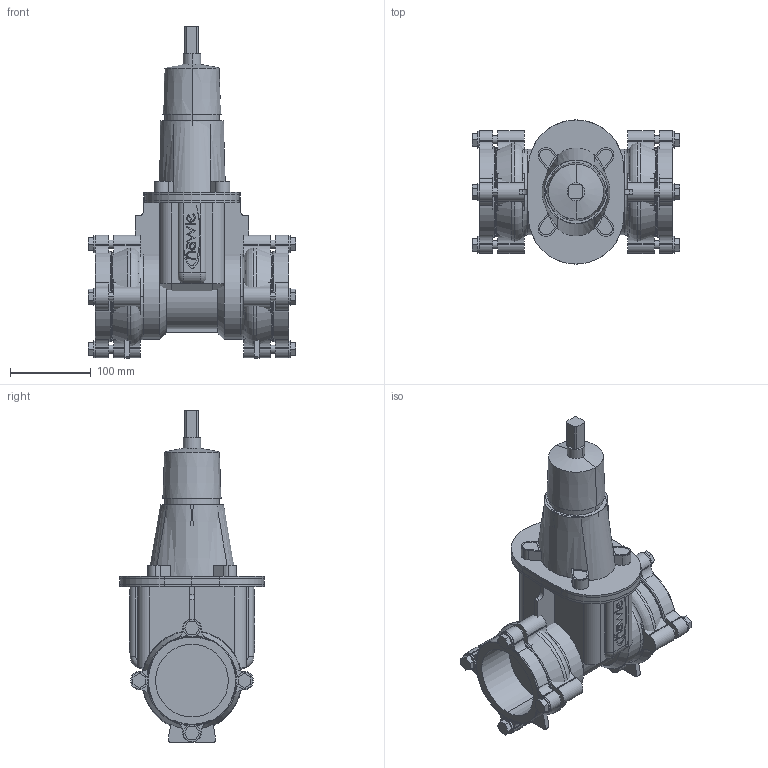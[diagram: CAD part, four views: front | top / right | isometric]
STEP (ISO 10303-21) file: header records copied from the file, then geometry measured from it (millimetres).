
FILE_DESCRIPTION(('STEP AP214'),'1');
FILE_NAME('S:/EK/USER/CAT6/3DHomepage/4040E2/4040E2-PN16-DN80.STP','2012-04-24T10:52:14',(' '),(' '),'Spatial InterOp 3D',' ',' ');
FILE_SCHEMA(('automotive_design'));
Length unit declared in the file: millimetre
Products named in the file (90): 3D-Objekt
Bounding box: 256.8 x 178.52 x 411 mm (x, y, z)
Volume: 4057123.7 mm3; surface area: 659158.1 mm2
Topology: 90 solids, 90 shells, 782 faces, 1792 edges, 1192 vertices
Faces by surface type: plane 410, cylinder 318, torus 28, cone 14, bspline 12
Entity records: 30816 total; most frequent: DIRECTION 4276, CARTESIAN_POINT 4060, ORIENTED_EDGE 3584, EDGE_CURVE 1792, AXIS2_PLACEMENT_3D 1624, VERTEX_POINT 1192, LINE 1028, VECTOR 1028
